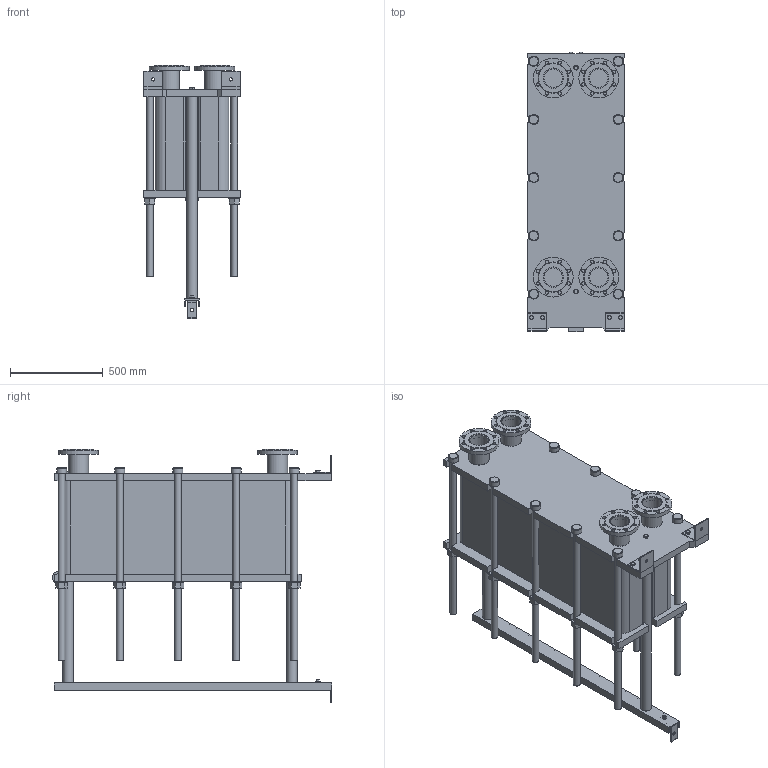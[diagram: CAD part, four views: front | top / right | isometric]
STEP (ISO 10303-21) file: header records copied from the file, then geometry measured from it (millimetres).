
FILE_DESCRIPTION(/* description */ (''),/* implementation_level */ '2;1');
FILE_NAME(/* name */ 'C:\Users\zhuro\Desktop\ENCO\TO\ЭН-04\ЭН-0,5-04-146-1.stp',/* time_stamp */ '2022-06-06T10:58:29+03:00',/* author */ ('zhuro'),/* organization */ (''),/* preprocessor_version */ 'ST-DEVELOPER v18.1',/* originating_system */ 'Autodesk Inventor 2022',/* authorisation */ '');
FILE_SCHEMA (('AUTOMOTIVE_DESIGN { 1 0 10303 214 3 1 1 }'));
Length unit declared in the file: millimetre
Products named in the file (1): ЭН-0,5-04-146-1
Bounding box: 520 x 1510 x 1368 mm (x, y, z)
Volume: 325409233.6 mm3; surface area: 9366806.3 mm2
Topology: 45 solids, 45 shells, 668 faces, 1611 edges, 1048 vertices
Faces by surface type: plane 457, cylinder 166, cone 39, torus 6
Full cylindrical faces by diameter (mm): 8 x4, 10 x2, 16 x8, 18 x35, 36 x25, 40 x2, 42 x1, 45 x4, 54 x10, 57 x2, 60 x10, 68 x2, 100 x4, 110 x8, 215 x4
Entity records: 23607 total; most frequent: CARTESIAN_POINT 7348, DIRECTION 3371, ORIENTED_EDGE 3142, EDGE_CURVE 1571, AXIS2_PLACEMENT_3D 1199, VERTEX_POINT 1044, LINE 973, VECTOR 973
